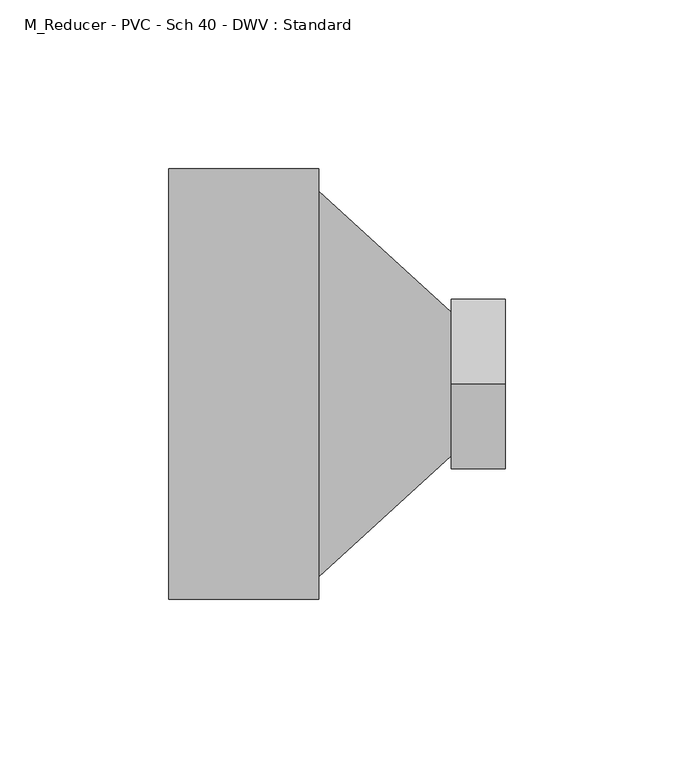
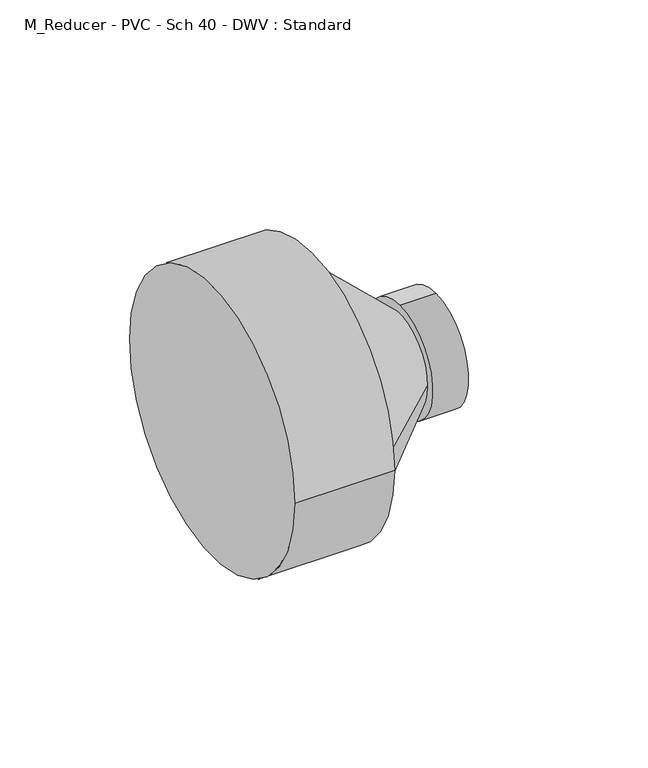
"""IFC4 building model written with IfcOpenShell, lengths in millimetres: pipe fitting geometry, M_Reducer - PVC - Sch 40 - DWV : Standard."""

from ifc_helpers import new_model, si_unit, frame, origin, place, context, project, spatial, polyline, circle_curve, source, transform, mapped, element, save
from ifc_brep_helpers import plane_surface, cylinder_surface, revolved_surface, advanced_brep


def m_reducer_pvc_sch_40_dwv_standard_19331f3d(model_context):
    return source(origin(), model_context, "Body", "AdvancedBrep", [
        advanced_brep(
        [(0.0, -63.754, 0.0), (0.0, 63.754, 0.0), (44.45, -63.754, 0.0), (44.45, 63.754, 0.0), (44.45, 57.15, 0.0), (44.45, -57.15, 0.0), (83.6560938, 21.2040625, 0.0), (83.6560938, -21.2040625, 0.0), (83.6560938, 0.0, 25.2671094), (83.6560938, 0.0, -25.2671094), (99.6560938, 0.0, 25.2671094), (99.6560938, 0.0, -25.2671094)],
        [
            (0, 1, circle_curve(frame((0.0, 0.0, 0.0), z_axis=(-1.0, 0.0, 0.0), x_axis=(0.0, 1.0, 0.0)), 63.754)),
            (1, 0, circle_curve(frame((0.0, 0.0, 0.0), z_axis=(-1.0, 0.0, 0.0), x_axis=(0.0, 1.0, 0.0)), 63.754)),
            (2, 3, circle_curve(frame((44.45, 0.0, 0.0), z_axis=(1.0, 0.0, 0.0), x_axis=(0.0, 1.0, 0.0)), 63.754)),
            (3, 2, circle_curve(frame((44.45, 0.0, 0.0), z_axis=(1.0, 0.0, 0.0), x_axis=(0.0, 1.0, 0.0)), 63.754)),
            (4, 5, circle_curve(frame((44.45, 0.0, 0.0), z_axis=(-1.0, 0.0, 0.0), x_axis=(0.0, -1.0, 0.0)), 57.15)),
            (5, 4, circle_curve(frame((44.45, 0.0, 0.0), z_axis=(-1.0, 0.0, 0.0), x_axis=(0.0, 1.0, 0.0)), 57.15)),
            (0, 2),
            (3, 1),
            (4, 6),
            (6, 7, circle_curve(frame((83.6560938, 0.0, 0.0), z_axis=(-1.0, 0.0, 0.0), x_axis=(0.0, -1.0, 0.0)), 21.2040625)),
            (7, 5),
            (7, 6, circle_curve(frame((83.6560938, 0.0, 0.0), z_axis=(-1.0, 0.0, 0.0), x_axis=(0.0, 1.0, 0.0)), 21.2040625)),
            (8, 9, circle_curve(frame((83.6560938, 0.0, 0.0), z_axis=(-1.0, 0.0, 0.0), x_axis=(0.0, 0.0, -1.0)), 25.2671094)),
            (9, 8, circle_curve(frame((83.6560938, 0.0, 0.0), z_axis=(-1.0, 0.0, 0.0), x_axis=(0.0, 0.0, -1.0)), 25.2671094)),
            (10, 11, circle_curve(frame((99.6560938, 0.0, 0.0), z_axis=(1.0, 0.0, 0.0), x_axis=(0.0, 0.0, -1.0)), 25.2671094)),
            (11, 10, circle_curve(frame((99.6560938, 0.0, 0.0), z_axis=(1.0, 0.0, 0.0), x_axis=(0.0, 0.0, -1.0)), 25.2671094)),
            (8, 10),
            (11, 9),
        ],
        [
            plane_surface(frame((0.0, 0.0, 0.0), z_axis=(-1.0, 0.0, 0.0), x_axis=(0.0, 0.0, 1.0))),
            plane_surface(frame((44.45, 0.0, 0.0), z_axis=(1.0, 0.0, 0.0), x_axis=(0.0, 0.0, 1.0))),
            cylinder_surface(frame((0.0, 0.0, 0.0), z_axis=(-1.0, 0.0, 0.0), x_axis=(0.0, 1.0, 0.0)), 63.754),
            revolved_surface(polyline([(83.6560938, 21.204062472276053, 0.0), (44.45, 57.15, 0.0)]), (106.783282, 0.0, 0.0), (-1.0, 0.0, 0.0)),
            plane_surface(frame((83.6560938, 0.0, 0.0), z_axis=(-1.0, 0.0, 0.0), x_axis=(0.0, 1.0, 0.0))),
            plane_surface(frame((99.6560938, 0.0, 0.0), z_axis=(1.0, 0.0, 0.0), x_axis=(0.0, 1.0, 0.0))),
            cylinder_surface(frame((83.6560938, 0.0, 0.0), z_axis=(-1.0, 0.0, 0.0), x_axis=(0.0, 0.0, -1.0)), 25.2671094),
        ],
        [
            (0, [[1, 2]]),
            (1, [[3, 4], [5, 6]]),
            (2, [[-1, 7, -4, 8]]),
            (2, [[-2, -8, -3, -7]]),
            (3, [[9, 10, 11, -5]]),
            (3, [[-9, -6, -11, 12]]),
            (4, [[13, 14], [-10, -12]]),
            (5, [[15, 16]]),
            (6, [[-13, 17, -16, 18]]),
            (6, [[-14, -18, -15, -17]]),
        ],
    ),
    ])


if __name__ == "__main__":
    model = new_model("IFC4")
    model_context = context("Model", 3, world=origin())
    ifc_project = project(units=[si_unit("LENGTHUNIT", "METRE", prefix="MILLI")], contexts=[model_context])
    site = spatial("IfcSite", under=ifc_project)
    building = spatial("IfcBuilding", under=site)
    placement = place(None, origin())
    m_reducer_pvc_sch_40_dwv_standard_shape = m_reducer_pvc_sch_40_dwv_standard_19331f3d(model_context)
    element("IfcPipeFitting", 1, ObjectType="M_Reducer - PVC - Sch 40 - DWV : Standard", at=placement, inside=building, context=model_context, shape_type="MappedRepresentation", body=[
        mapped(m_reducer_pvc_sch_40_dwv_standard_shape, transform((0.0, 0.0, 0.0), x_axis=(1.0, 0.0, 0.0), y_axis=(0.0, 1.0, 0.0), z_axis=(0.0, 0.0, 1.0))),
    ])
    save(model, "model.ifc")
